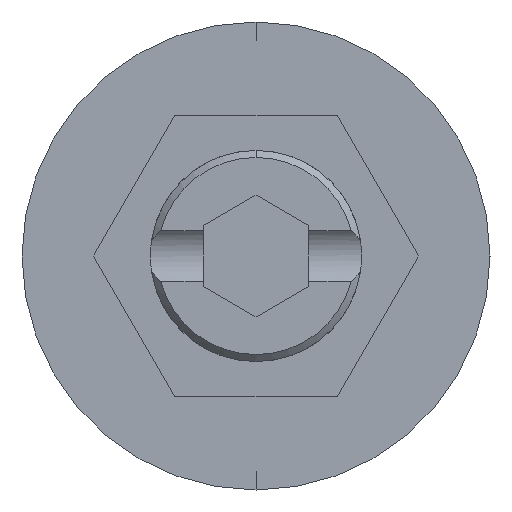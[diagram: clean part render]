
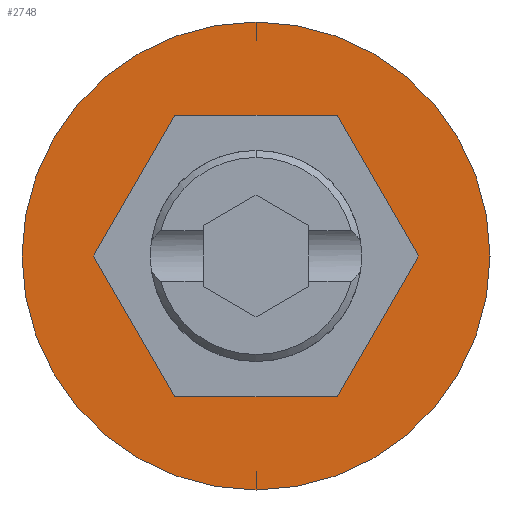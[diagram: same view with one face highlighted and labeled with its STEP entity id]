
A CAD part, front view. The second image highlights one B-rep face of the part: STEP entity #2748.
In plain terms, the highlighted planar face has unit normal (0, -1, 0).
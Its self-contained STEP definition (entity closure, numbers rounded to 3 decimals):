
#123 = EDGE_CURVE ( 'NONE', #450, #2581, #2749, .T. ) ;
#194 = CARTESIAN_POINT ( 'NONE',  ( 0., 0., -6.65 ) ) ;
#244 = ORIENTED_EDGE ( 'NONE', *, *, #1955, .T. ) ;
#377 = DIRECTION ( 'NONE',  ( 1., 0., 0. ) ) ;
#401 = AXIS2_PLACEMENT_3D ( 'NONE', #744, #435, #1358 ) ;
#435 = DIRECTION ( 'NONE',  ( 0., -1., 0. ) ) ;
#450 = VERTEX_POINT ( 'NONE', #2990 ) ;
#501 = CARTESIAN_POINT ( 'NONE',  ( -4.619, 0., 0. ) ) ;
#519 = CARTESIAN_POINT ( 'NONE',  ( -2.309, 0., -4. ) ) ;
#547 = EDGE_CURVE ( 'NONE', #2869, #3736, #1384, .T. ) ;
#744 = CARTESIAN_POINT ( 'NONE',  ( 0., 0., 0. ) ) ;
#788 = FACE_BOUND ( 'NONE', #808, .T. ) ;
#808 = EDGE_LOOP ( 'NONE', ( #1343, #1385, #3119, #2704, #1679, #1139 ) ) ;
#862 = EDGE_CURVE ( 'NONE', #3684, #1056, #3279, .T. ) ;
#945 = CARTESIAN_POINT ( 'NONE',  ( 4.619, 0., 0. ) ) ;
#1049 = PLANE ( 'NONE',  #401 ) ;
#1056 = VERTEX_POINT ( 'NONE', #1439 ) ;
#1063 = VERTEX_POINT ( 'NONE', #3258 ) ;
#1139 = ORIENTED_EDGE ( 'NONE', *, *, #1623, .F. ) ;
#1319 = DIRECTION ( 'NONE',  ( -0.5, 0., 0.866 ) ) ;
#1343 = ORIENTED_EDGE ( 'NONE', *, *, #2460, .F. ) ;
#1358 = DIRECTION ( 'NONE',  ( 0., 0., -1. ) ) ;
#1384 = LINE ( 'NONE', #1994, #1990 ) ;
#1385 = ORIENTED_EDGE ( 'NONE', *, *, #547, .F. ) ;
#1413 = FACE_OUTER_BOUND ( 'NONE', #2888, .T. ) ;
#1436 = ORIENTED_EDGE ( 'NONE', *, *, #123, .T. ) ;
#1439 = CARTESIAN_POINT ( 'NONE',  ( -2.309, 0., 4. ) ) ;
#1540 = VECTOR ( 'NONE', #377, 1000. ) ;
#1623 = EDGE_CURVE ( 'NONE', #1063, #1660, #2289, .T. ) ;
#1660 = VERTEX_POINT ( 'NONE', #945 ) ;
#1679 = ORIENTED_EDGE ( 'NONE', *, *, #3160, .F. ) ;
#1855 = CARTESIAN_POINT ( 'NONE',  ( 2.309, 0., -4. ) ) ;
#1911 = CARTESIAN_POINT ( 'NONE',  ( 4.619, 0., 0. ) ) ;
#1955 = EDGE_CURVE ( 'NONE', #2581, #450, #3578, .T. ) ;
#1980 = LINE ( 'NONE', #2735, #2059 ) ;
#1990 = VECTOR ( 'NONE', #3682, 1000. ) ;
#1994 = CARTESIAN_POINT ( 'NONE',  ( -4.619, 0., 0. ) ) ;
#2059 = VECTOR ( 'NONE', #2647, 1000. ) ;
#2154 = DIRECTION ( 'NONE',  ( 0., 0., -1. ) ) ;
#2167 = DIRECTION ( 'NONE',  ( 0., -1., 0. ) ) ;
#2182 = CARTESIAN_POINT ( 'NONE',  ( 0., 0., 0. ) ) ;
#2257 = DIRECTION ( 'NONE',  ( 0.5, 0., 0.866 ) ) ;
#2289 = LINE ( 'NONE', #1855, #3886 ) ;
#2333 = VECTOR ( 'NONE', #2372, 1000. ) ;
#2372 = DIRECTION ( 'NONE',  ( -1., 0., 0. ) ) ;
#2460 = EDGE_CURVE ( 'NONE', #3736, #1063, #3093, .T. ) ;
#2552 = AXIS2_PLACEMENT_3D ( 'NONE', #2182, #2167, #2154 ) ;
#2581 = VERTEX_POINT ( 'NONE', #194 ) ;
#2597 = EDGE_CURVE ( 'NONE', #1056, #2869, #1980, .T. ) ;
#2647 = DIRECTION ( 'NONE',  ( -0.5, 0., -0.866 ) ) ;
#2681 = VECTOR ( 'NONE', #1319, 1000. ) ;
#2703 = CARTESIAN_POINT ( 'NONE',  ( -2.309, 0., -4. ) ) ;
#2704 = ORIENTED_EDGE ( 'NONE', *, *, #862, .F. ) ;
#2735 = CARTESIAN_POINT ( 'NONE',  ( -2.309, 0., 4. ) ) ;
#2748 = ADVANCED_FACE ( 'NONE', ( #788, #1413 ), #1049, .T. ) ;
#2749 = CIRCLE ( 'NONE', #3783, 6.65 ) ;
#2869 = VERTEX_POINT ( 'NONE', #501 ) ;
#2888 = EDGE_LOOP ( 'NONE', ( #244, #1436 ) ) ;
#2990 = CARTESIAN_POINT ( 'NONE',  ( 0., 0., 6.65 ) ) ;
#3093 = LINE ( 'NONE', #519, #1540 ) ;
#3119 = ORIENTED_EDGE ( 'NONE', *, *, #2597, .F. ) ;
#3160 = EDGE_CURVE ( 'NONE', #1660, #3684, #3566, .T. ) ;
#3218 = CARTESIAN_POINT ( 'NONE',  ( 2.309, 0., 4. ) ) ;
#3258 = CARTESIAN_POINT ( 'NONE',  ( 2.309, 0., -4. ) ) ;
#3279 = LINE ( 'NONE', #3218, #2333 ) ;
#3566 = LINE ( 'NONE', #1911, #2681 ) ;
#3578 = CIRCLE ( 'NONE', #2552, 6.65 ) ;
#3609 = DIRECTION ( 'NONE',  ( 0., 0., -1. ) ) ;
#3648 = DIRECTION ( 'NONE',  ( 0., -1., 0. ) ) ;
#3661 = CARTESIAN_POINT ( 'NONE',  ( 0., 0., 0. ) ) ;
#3682 = DIRECTION ( 'NONE',  ( 0.5, 0., -0.866 ) ) ;
#3684 = VERTEX_POINT ( 'NONE', #3744 ) ;
#3736 = VERTEX_POINT ( 'NONE', #2703 ) ;
#3744 = CARTESIAN_POINT ( 'NONE',  ( 2.309, 0., 4. ) ) ;
#3783 = AXIS2_PLACEMENT_3D ( 'NONE', #3661, #3648, #3609 ) ;
#3886 = VECTOR ( 'NONE', #2257, 1000. ) ;
